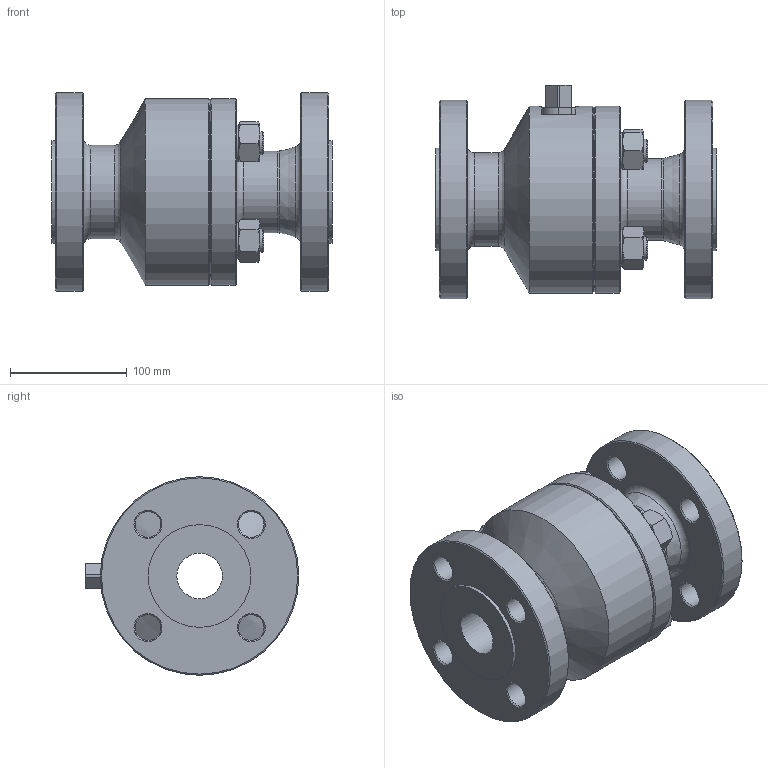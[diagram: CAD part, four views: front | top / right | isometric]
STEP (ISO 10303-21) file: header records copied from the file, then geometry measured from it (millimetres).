
FILE_DESCRIPTION((''),'2;1');
FILE_NAME('C:\Users\Bartek\Desktop\Nowy folder (2)\Nowy folder (22)\WK5b DN40 PN100_Substitute_1.stp','2024-09-16T15:32:41',('Bartek'),(''),'Autodesk Inventor 2012','Autodesk Inventor 2012','');
FILE_SCHEMA(('AUTOMOTIVE_DESIGN { 1 0 10303 214 1 1 1 1 }'));
Length unit declared in the file: millimetre
Products named in the file (1): WK5b DN40 PN100_Substitute_1
Bounding box: 240 x 183 x 170 mm (x, y, z)
Volume: 3048999.7 mm3; surface area: 267563.7 mm2
Topology: 1 solids, 1 shells, 173 faces, 379 edges, 229 vertices
Faces by surface type: cone 77, plane 57, cylinder 34, torus 5
Full cylindrical faces by diameter (mm): 20 x4, 22 x8, 31 x4, 39 x1, 70 x1, 80 x1, 88 x2, 100 x1, 160 x2, 170 x2
Entity records: 4441 total; most frequent: CARTESIAN_POINT 890, DIRECTION 710, ORIENTED_EDGE 614, AXIS2_PLACEMENT_3D 325, EDGE_CURVE 307, EDGE_LOOP 272, VERTEX_POINT 217, STYLED_ITEM 174
